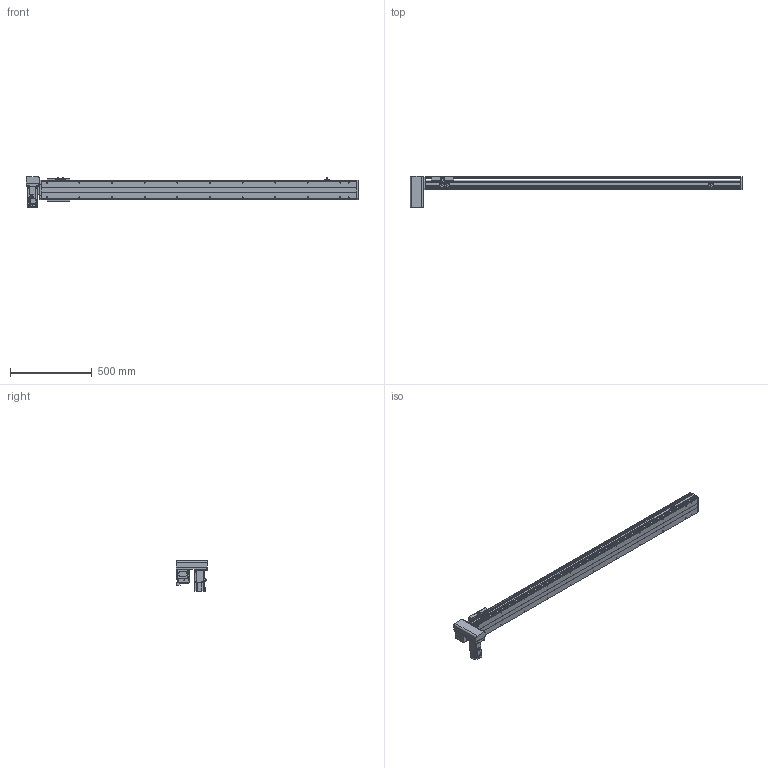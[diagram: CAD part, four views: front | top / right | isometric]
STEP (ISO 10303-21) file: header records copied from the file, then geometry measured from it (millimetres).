
FILE_DESCRIPTION( ( 'STEP AP214' ), '1' );
FILE_NAME( 'x:/temp/worker_27/temp/exporttempdir_6708_195_JDMWf/format_0/PBS120-P40-S1650-RD-T40-C1-N(0).stp', '2022-06-06T00:43:03', ( 'License CC BY-ND 4.0' ), ( 'CADENAS' ), ' ', 'PARTsolutions', ' ' );
FILE_SCHEMA( ( 'AUTOMOTIVE_DESIGN { 1 0 10303 214 1 1 1 1 }' ) );
Length unit declared in the file: millimetre
Products named in the file (7): PBS120-P40-S1650-RD-T40-C1-N(0); _PBS120-S1650()_body; _PBS120T-RD_motors; _T40-p1; _PBS120_sliser; _PBS120_plant; _PBS120_sensor
Assembly tree (8 placements, depth 2):
  PBS120-P40-S1650-RD-T40-C1-N(0)
    _PBS120-S1650()_body
    _PBS120T-RD_motors
    _T40-p1
    _PBS120_sliser
    _PBS120_plant
    _PBS120_sensor  x3
Bounding box: 2036 x 196 x 189.7 mm (x, y, z)
Volume: 8076803.3 mm3; surface area: 1630709.6 mm2
Topology: 8 solids, 8 shells, 846 faces, 2186 edges, 1405 vertices
Faces by surface type: plane 555, cylinder 235, cone 54, torus 2
Full cylindrical faces by diameter (mm): 2.459 x6, 3.242 x4, 4 x2, 4.134 x4, 4.5 x10, 4.917 x26, 5.5 x11, 6 x2, 6.6 x1, 7 x2, 8.5 x4, 9 x4, 12 x1, 14 x1, 30 x2, 40 x1, 50 x2
Entity records: 27828 total; most frequent: DIRECTION 3812, CARTESIAN_POINT 3731, ORIENTED_EDGE 3538, EDGE_CURVE 1769, AXIS2_PLACEMENT_3D 1292, LINE 1228, VECTOR 1228, VERTEX_POINT 1211
